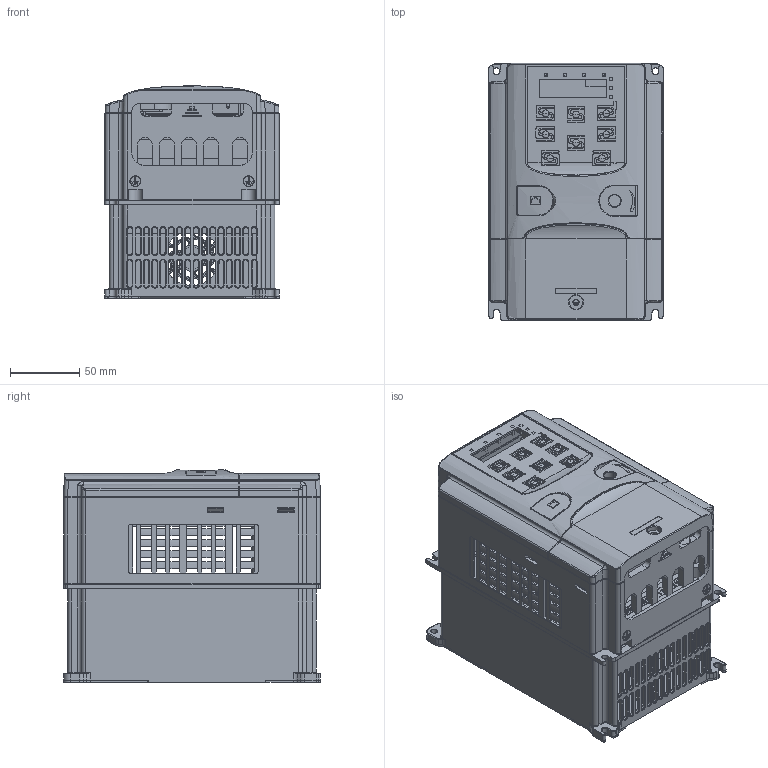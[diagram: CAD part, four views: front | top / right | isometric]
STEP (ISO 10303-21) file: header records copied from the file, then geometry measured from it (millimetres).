
FILE_DESCRIPTION((''),'2;1');
FILE_NAME('GD200A_2R2G_ASM','2017-03-14T',('Administrator'),(''),'PRO/ENGINEER BY PARAMETRIC TECHNOLOGY CORPORATION, 2010100','PRO/ENGINEER BY PARAMETRIC TECHNOLOGY CORPORATION, 2010100','');
FILE_SCHEMA(('CONFIG_CONTROL_DESIGN'));
Products named in the file (12): 80810036; 80740119; 86400026; 86400027; 40810062_A_ASM; 80740120; 80880095; 80740045; 80310229; 80740044; 80810037; GD200A_2R2G_ASM
Assembly tree (11 placements, depth 3):
  GD200A_2R2G_ASM
    40810062_A_ASM
      80810036
      80740119
      86400026
      86400027
    80740120
    80880095
    80740045
    80310229
    80740044
    80810037
Bounding box: 126 x 186 x 153.71 mm (x, y, z)
Volume: 413564.6 mm3; surface area: 416394.5 mm2
Topology: 10 solids, 10 shells, 4394 faces, 12277 edges, 7879 vertices
Faces by surface type: plane 2428, cylinder 1180, extrusion 306, bspline 162, cone 160, torus 132, sphere 26
Entity records: 166633 total; most frequent: CARTESIAN_POINT 53964, ORIENTED_EDGE 24476, DIRECTION 21929, EDGE_CURVE 12238, VECTOR 8409, LINE 8103, VERTEX_POINT 7878, AXIS2_PLACEMENT_3D 6760
